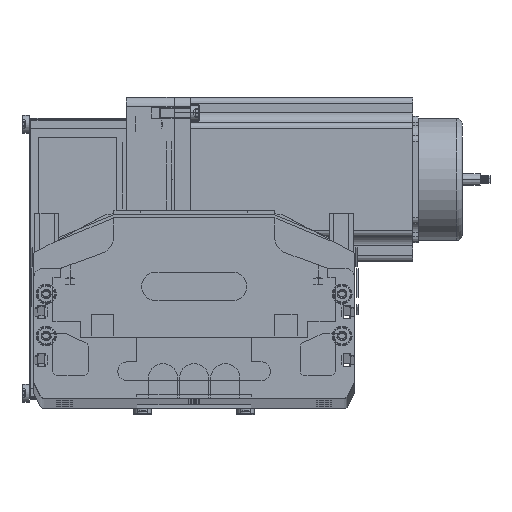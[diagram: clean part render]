
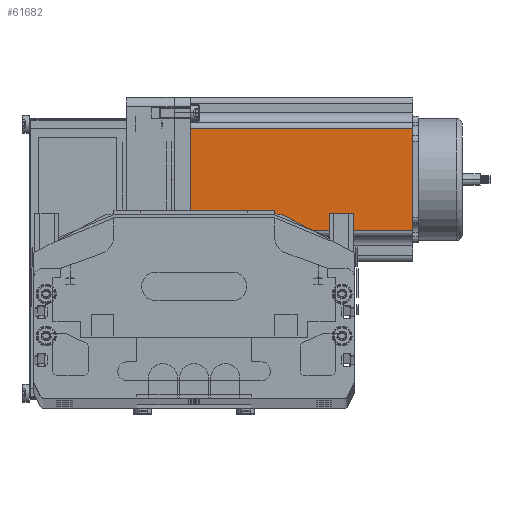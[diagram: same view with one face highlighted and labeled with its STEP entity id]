
A CAD part, top view. The second image highlights one B-rep face of the part: STEP entity #61682.
In plain terms, the highlighted planar face has unit normal (0, 0, 1) as drawn and (0, -1, 0) by its records, which use the part's own axes.
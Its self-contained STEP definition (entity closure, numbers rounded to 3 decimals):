
#32700 = CARTESIAN_POINT ( 'NONE',  ( 16.16, 0., 116.5 ) ) ;
#33082 = DIRECTION ( 'NONE',  ( 0., 0., -1. ) ) ;
#33084 = VECTOR ( 'NONE', #33082, 1000. ) ;
#33714 = CARTESIAN_POINT ( 'NONE',  ( 0., 0., 116.5 ) ) ;
#33715 = LINE ( 'NONE', #33714, #33766 ) ;
#33764 = DIRECTION ( 'NONE',  ( 1., 0., 0. ) ) ;
#33766 = VECTOR ( 'NONE', #33764, 1000. ) ;
#33903 = FACE_OUTER_BOUND ( 'NONE', #61960, .T. ) ;
#34174 = DIRECTION ( 'NONE',  ( 1., 0., 0. ) ) ;
#34176 = VECTOR ( 'NONE', #34174, 1000. ) ;
#34181 = CARTESIAN_POINT ( 'NONE',  ( 0., 0., 0. ) ) ;
#34183 = LINE ( 'NONE', #34181, #34176 ) ;
#34209 = CARTESIAN_POINT ( 'NONE',  ( 69.74, 0., 0. ) ) ;
#34243 = CARTESIAN_POINT ( 'NONE',  ( 16.16, 0., 116.5 ) ) ;
#34396 = LINE ( 'NONE', #32700, #33084 ) ;
#34649 = PLANE ( 'NONE',  #34964 ) ;
#34703 = CARTESIAN_POINT ( 'NONE',  ( 0., 0., 116.5 ) ) ;
#34757 = DIRECTION ( 'NONE',  ( 0., 0., 1. ) ) ;
#34811 = DIRECTION ( 'NONE',  ( 0., 1., 0. ) ) ;
#34964 = AXIS2_PLACEMENT_3D ( 'NONE', #34703, #34811, #34757 ) ;
#35207 = DIRECTION ( 'NONE',  ( 0., 0., 1. ) ) ;
#35892 = CARTESIAN_POINT ( 'NONE',  ( 69.74, 0., 116.5 ) ) ;
#36327 = CARTESIAN_POINT ( 'NONE',  ( 16.16, 0., 0. ) ) ;
#36482 = VECTOR ( 'NONE', #35207, 1000. ) ;
#36483 = CARTESIAN_POINT ( 'NONE',  ( 69.74, 0., 116.5 ) ) ;
#36494 = LINE ( 'NONE', #36483, #36482 ) ;
#61460 = EDGE_CURVE ( 'NONE', #61500, #61961, #33715, .T. ) ;
#61498 = ORIENTED_EDGE ( 'NONE', *, *, #61579, .T. ) ;
#61500 = VERTEX_POINT ( 'NONE', #34243 ) ;
#61516 = VERTEX_POINT ( 'NONE', #34209 ) ;
#61579 = EDGE_CURVE ( 'NONE', #62161, #61516, #34183, .T. ) ;
#61667 = ORIENTED_EDGE ( 'NONE', *, *, #61673, .T. ) ;
#61673 = EDGE_CURVE ( 'NONE', #61500, #62161, #34396, .T. ) ;
#61682 = ADVANCED_FACE ( 'NONE', ( #33903 ), #34649, .F. ) ;
#61684 = ORIENTED_EDGE ( 'NONE', *, *, #62182, .T. ) ;
#61693 = ORIENTED_EDGE ( 'NONE', *, *, #61460, .F. ) ;
#61960 = EDGE_LOOP ( 'NONE', ( #61498, #61684, #61693, #61667 ) ) ;
#61961 = VERTEX_POINT ( 'NONE', #35892 ) ;
#62161 = VERTEX_POINT ( 'NONE', #36327 ) ;
#62182 = EDGE_CURVE ( 'NONE', #61516, #61961, #36494, .T. ) ;
